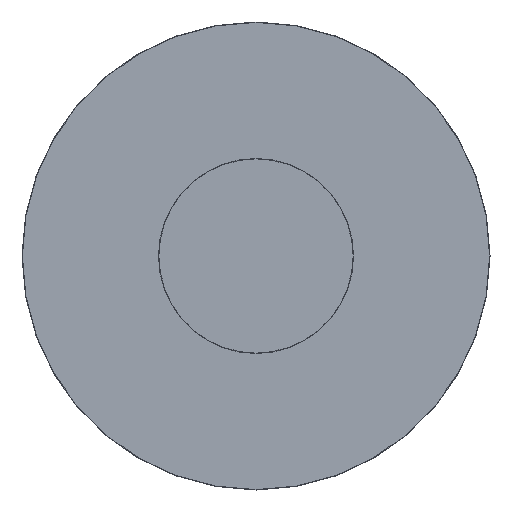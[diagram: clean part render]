
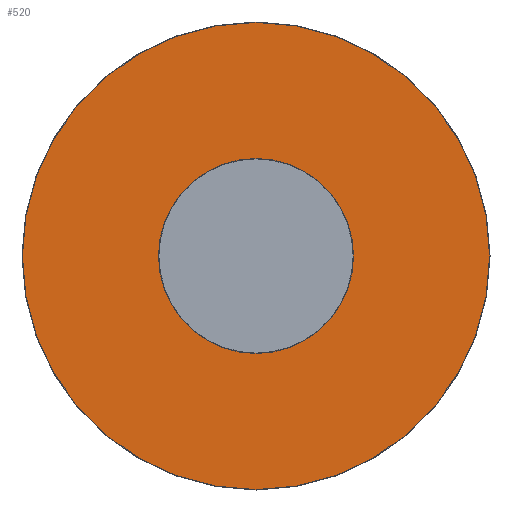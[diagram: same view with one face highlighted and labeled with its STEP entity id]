
A CAD part, front view. The second image highlights one B-rep face of the part: STEP entity #520.
In plain terms, the highlighted planar face has unit normal (0, -1, 0).
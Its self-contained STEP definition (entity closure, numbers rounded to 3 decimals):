
#10 = AXIS2_PLACEMENT_3D ( 'NONE', #145, #532, #198 ) ;
#39 = EDGE_LOOP ( 'NONE', ( #142, #546 ) ) ;
#80 = DIRECTION ( 'NONE',  ( 0., -1., 0. ) ) ;
#130 = CARTESIAN_POINT ( 'NONE',  ( 0., 355., 0. ) ) ;
#132 = DIRECTION ( 'NONE',  ( 0., 1., 0. ) ) ;
#142 = ORIENTED_EDGE ( 'NONE', *, *, #290, .T. ) ;
#145 = CARTESIAN_POINT ( 'NONE',  ( 0., 355., 0. ) ) ;
#184 = CARTESIAN_POINT ( 'NONE',  ( 0., 355., 599. ) ) ;
#198 = DIRECTION ( 'NONE',  ( 0., 0., 1. ) ) ;
#202 = CARTESIAN_POINT ( 'NONE',  ( 0., 355., -599. ) ) ;
#290 = EDGE_CURVE ( 'NONE', #434, #635, #349, .T. ) ;
#349 = CIRCLE ( 'NONE', #10, 599. ) ;
#409 = CARTESIAN_POINT ( 'NONE',  ( 0., 355., 0. ) ) ;
#434 = VERTEX_POINT ( 'NONE', #184 ) ;
#472 = DIRECTION ( 'NONE',  ( 0., 0., 1. ) ) ;
#516 = EDGE_CURVE ( 'NONE', #635, #434, #534, .T. ) ;
#520 = ADVANCED_FACE ( 'NONE', ( #552 ), #667, .F. ) ;
#525 = DIRECTION ( 'NONE',  ( 0., 0., 1. ) ) ;
#532 = DIRECTION ( 'NONE',  ( 0., -1., 0. ) ) ;
#534 = CIRCLE ( 'NONE', #623, 599. ) ;
#546 = ORIENTED_EDGE ( 'NONE', *, *, #516, .T. ) ;
#552 = FACE_OUTER_BOUND ( 'NONE', #39, .T. ) ;
#588 = AXIS2_PLACEMENT_3D ( 'NONE', #130, #132, #525 ) ;
#623 = AXIS2_PLACEMENT_3D ( 'NONE', #409, #80, #472 ) ;
#635 = VERTEX_POINT ( 'NONE', #202 ) ;
#667 = PLANE ( 'NONE',  #588 ) ;
